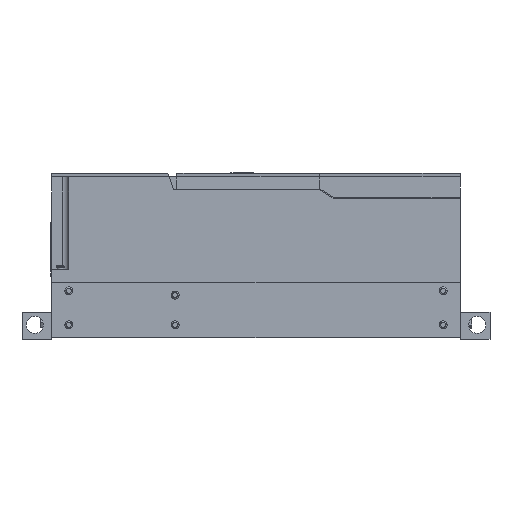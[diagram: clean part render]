
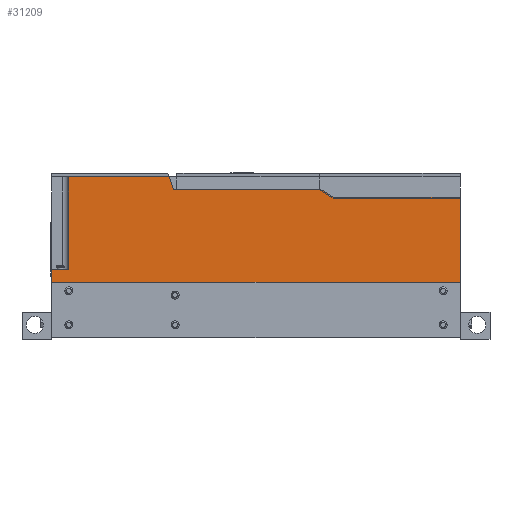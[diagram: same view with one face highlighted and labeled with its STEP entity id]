
A CAD part, left-side view. The second image highlights one B-rep face of the part: STEP entity #31209.
In plain terms, the highlighted planar face has unit normal (-1, 0, 0).
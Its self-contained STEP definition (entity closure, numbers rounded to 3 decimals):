
#3940=DIRECTION('',(0.,0.,-1.));
#3941=VECTOR('',#3940,15.);
#3942=CARTESIAN_POINT('',(-162.5,240.,79.8));
#3943=LINE('',#3942,#3941);
#4464=DIRECTION('',(0.,1.,0.));
#4465=VECTOR('',#4464,480.);
#4466=CARTESIAN_POINT('',(-162.5,-240.,64.8));
#4467=LINE('',#4466,#4465);
#4598=DIRECTION('',(0.,1.,0.));
#4599=VECTOR('',#4598,173.022);
#4600=CARTESIAN_POINT('',(-162.5,-76.387,173.9));
#4601=LINE('',#4600,#4599);
#9127=DIRECTION('',(0.,-1.,0.));
#9128=VECTOR('',#9127,117.905);
#9129=CARTESIAN_POINT('',(-162.5,220.,188.9));
#9130=LINE('',#9129,#9128);
#9407=DIRECTION('',(0.,1.,0.));
#9408=VECTOR('',#9407,149.213);
#9409=CARTESIAN_POINT('',(-162.5,-240.,164.9));
#9410=LINE('',#9409,#9408);
#9411=DIRECTION('',(0.,0.,-1.));
#9412=VECTOR('',#9411,100.1);
#9413=CARTESIAN_POINT('',(-162.5,-240.,164.9));
#9414=LINE('',#9413,#9412);
#9415=DIRECTION('',(0.,-1.,0.));
#9416=VECTOR('',#9415,20.);
#9417=CARTESIAN_POINT('',(-162.5,240.,79.8));
#9418=LINE('',#9417,#9416);
#9419=DIRECTION('',(0.,0.,-1.));
#9420=VECTOR('',#9419,109.1);
#9421=CARTESIAN_POINT('',(-162.5,220.,188.9));
#9422=LINE('',#9421,#9420);
#9423=DIRECTION('',(0.,-0.342,-0.94));
#9424=VECTOR('',#9423,15.963);
#9425=CARTESIAN_POINT('',(-162.5,102.095,188.9));
#9426=LINE('',#9425,#9424);
#9427=DIRECTION('',(0.,-0.848,-0.53));
#9428=VECTOR('',#9427,16.981);
#9429=CARTESIAN_POINT('',(-162.5,-76.387,173.9));
#9430=LINE('',#9429,#9428);
#15006=CARTESIAN_POINT('',(-162.5,240.,79.8));
#15007=CARTESIAN_POINT('',(-162.5,220.,79.8));
#15008=VERTEX_POINT('',#15006);
#15009=VERTEX_POINT('',#15007);
#15010=CARTESIAN_POINT('',(-162.5,220.,188.9));
#15011=VERTEX_POINT('',#15010);
#15036=CARTESIAN_POINT('',(-162.5,-240.,64.8));
#15037=CARTESIAN_POINT('',(-162.5,240.,64.8));
#15038=VERTEX_POINT('',#15036);
#15039=VERTEX_POINT('',#15037);
#15046=CARTESIAN_POINT('',(-162.5,102.095,188.9));
#15047=CARTESIAN_POINT('',(-162.5,96.636,173.9));
#15048=VERTEX_POINT('',#15046);
#15049=VERTEX_POINT('',#15047);
#15460=CARTESIAN_POINT('',(-162.5,-240.,164.9));
#15461=CARTESIAN_POINT('',(-162.5,-90.787,164.9));
#15462=VERTEX_POINT('',#15460);
#15463=VERTEX_POINT('',#15461);
#15464=CARTESIAN_POINT('',(-162.5,-76.387,173.9));
#15465=VERTEX_POINT('',#15464);
#31190=CARTESIAN_POINT('',(-162.5,240.,74.8));
#31191=DIRECTION('',(-1.,0.,0.));
#31192=DIRECTION('',(0.,-1.,0.));
#31193=AXIS2_PLACEMENT_3D('',#31190,#31191,#31192);
#31194=PLANE('',#31193);
#31196=ORIENTED_EDGE('',*,*,#31195,.F.);
#31197=ORIENTED_EDGE('',*,*,#22359,.T.);
#31198=ORIENTED_EDGE('',*,*,#23887,.T.);
#31199=ORIENTED_EDGE('',*,*,#23273,.F.);
#31200=ORIENTED_EDGE('',*,*,#31049,.T.);
#31201=ORIENTED_EDGE('',*,*,#31184,.F.);
#31202=ORIENTED_EDGE('',*,*,#30706,.T.);
#31203=ORIENTED_EDGE('',*,*,#30642,.T.);
#31204=ORIENTED_EDGE('',*,*,#24079,.F.);
#31206=ORIENTED_EDGE('',*,*,#31205,.T.);
#31207=EDGE_LOOP('',(#31196,#31197,#31198,#31199,#31200,#31201,#31202,#31203,
#31204,#31206));
#31208=FACE_OUTER_BOUND('',#31207,.F.);
#31209=ADVANCED_FACE('',(#31208),#31194,.T.);
#22359=EDGE_CURVE('',#15462,#15038,#9414,.T.);
#23273=EDGE_CURVE('',#15008,#15039,#3943,.T.);
#23887=EDGE_CURVE('',#15038,#15039,#4467,.T.);
#24079=EDGE_CURVE('',#15465,#15049,#4601,.T.);
#30642=EDGE_CURVE('',#15048,#15049,#9426,.T.);
#30706=EDGE_CURVE('',#15011,#15048,#9130,.T.);
#31049=EDGE_CURVE('',#15008,#15009,#9418,.T.);
#31184=EDGE_CURVE('',#15011,#15009,#9422,.T.);
#31195=EDGE_CURVE('',#15462,#15463,#9410,.T.);
#31205=EDGE_CURVE('',#15465,#15463,#9430,.T.);
